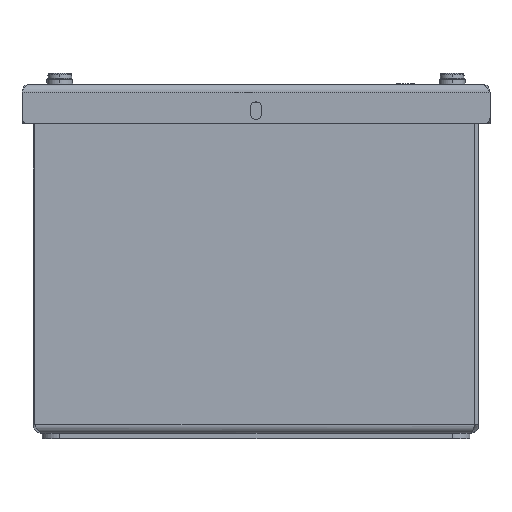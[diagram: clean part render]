
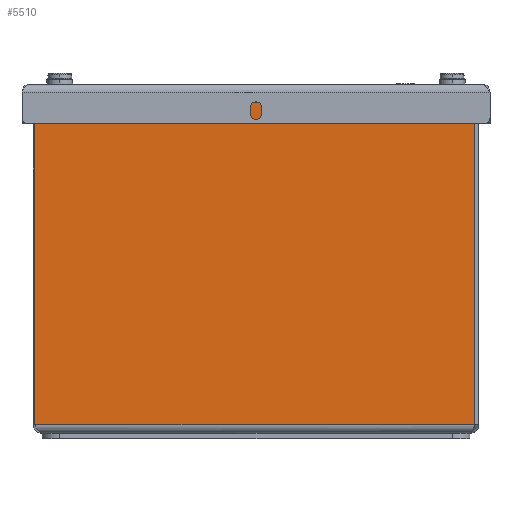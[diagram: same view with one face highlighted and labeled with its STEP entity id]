
A CAD part, left-side view. The second image highlights one B-rep face of the part: STEP entity #5510.
In plain terms, the highlighted planar face has unit normal (-1, 0, 0).
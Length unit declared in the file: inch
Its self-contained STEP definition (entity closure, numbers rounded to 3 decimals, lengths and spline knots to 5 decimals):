
#260=DIRECTION('',(0.,-1.,0.));
#261=VECTOR('',#260,6.168);
#262=CARTESIAN_POINT('',(0.,6.228,0.12));
#263=LINE('',#262,#261);
#1597=DIRECTION('',(0.,-1.,0.));
#1598=VECTOR('',#1597,5.47175);
#1599=CARTESIAN_POINT('',(0.,6.228,4.638));
#1600=LINE('',#1599,#1598);
#1684=DIRECTION('',(0.,0.,1.));
#1685=VECTOR('',#1684,4.518);
#1686=CARTESIAN_POINT('',(0.,6.228,0.12));
#1687=LINE('',#1686,#1685);
#1691=DIRECTION('',(0.,0.,1.));
#1692=VECTOR('',#1691,0.042);
#1693=CARTESIAN_POINT('',(0.,0.75625,4.638));
#1694=LINE('',#1693,#1692);
#1698=DIRECTION('',(0.,1.,0.));
#1699=VECTOR('',#1698,0.65125);
#1700=CARTESIAN_POINT('',(0.,0.105,4.68));
#1701=LINE('',#1700,#1699);
#1705=CARTESIAN_POINT('',(0.,0.105,4.635));
#1706=DIRECTION('',(-1.,0.,0.));
#1707=DIRECTION('',(0.,-1.,0.));
#1708=AXIS2_PLACEMENT_3D('',#1705,#1706,#1707);
#1755=DIRECTION('',(0.,0.,1.));
#1756=VECTOR('',#1755,4.515);
#1757=CARTESIAN_POINT('',(0.,0.06,0.12));
#1758=LINE('',#1757,#1756);
#3416=CARTESIAN_POINT('',(0.,0.75625,4.638));
#3417=CARTESIAN_POINT('',(0.,0.75625,4.68));
#3418=VERTEX_POINT('',#3416);
#3419=VERTEX_POINT('',#3417);
#3544=CARTESIAN_POINT('',(0.,6.228,0.12));
#3545=CARTESIAN_POINT('',(0.,6.228,4.638));
#3546=VERTEX_POINT('',#3544);
#3547=VERTEX_POINT('',#3545);
#3592=CARTESIAN_POINT('',(0.,0.06,4.635));
#3593=CARTESIAN_POINT('',(0.,0.105,4.68));
#3594=VERTEX_POINT('',#3592);
#3595=VERTEX_POINT('',#3593);
#3600=CARTESIAN_POINT('',(0.,0.06,0.12));
#3601=VERTEX_POINT('',#3600);
#5492=CARTESIAN_POINT('',(0.,6.25,0.));
#5493=DIRECTION('',(-1.,0.,0.));
#5494=DIRECTION('',(0.,-1.,0.));
#5495=AXIS2_PLACEMENT_3D('',#5492,#5493,#5494);
#5496=PLANE('',#5495);
#5497=ORIENTED_EDGE('',*,*,#5065,.T.);
#5498=ORIENTED_EDGE('',*,*,#5482,.T.);
#5500=ORIENTED_EDGE('',*,*,#5499,.T.);
#5502=ORIENTED_EDGE('',*,*,#5501,.F.);
#5504=ORIENTED_EDGE('',*,*,#5503,.F.);
#5506=ORIENTED_EDGE('',*,*,#5505,.F.);
#5507=ORIENTED_EDGE('',*,*,#3996,.F.);
#5508=EDGE_LOOP('',(#5497,#5498,#5500,#5502,#5504,#5506,#5507));
#5509=FACE_OUTER_BOUND('',#5508,.F.);
#1709=CIRCLE('',#1708,0.045);
#3996=EDGE_CURVE('',#3546,#3601,#263,.T.);
#5065=EDGE_CURVE('',#3546,#3547,#1687,.T.);
#5482=EDGE_CURVE('',#3547,#3418,#1600,.T.);
#5499=EDGE_CURVE('',#3418,#3419,#1694,.T.);
#5501=EDGE_CURVE('',#3595,#3419,#1701,.T.);
#5503=EDGE_CURVE('',#3594,#3595,#1709,.T.);
#5505=EDGE_CURVE('',#3601,#3594,#1758,.T.);
#5510=ADVANCED_FACE('',(#5509),#5496,.T.);
